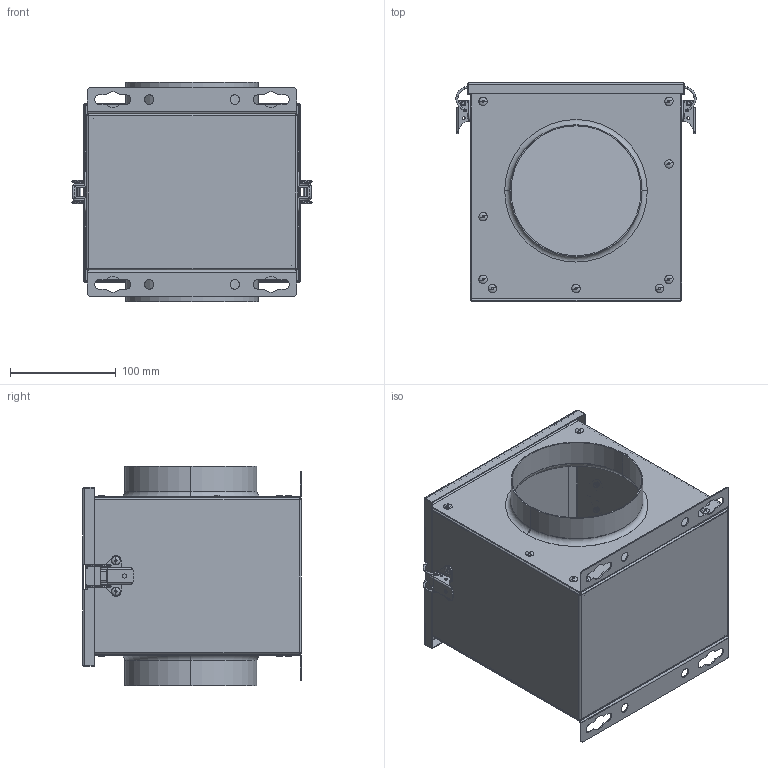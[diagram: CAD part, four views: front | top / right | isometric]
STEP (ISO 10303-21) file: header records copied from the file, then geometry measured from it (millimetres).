
FILE_DESCRIPTION (( 'STEP AP203' ), '1' );
FILE_NAME ('112679-01_FV125_step.step', '2020-08-26T10:44:40', ( '' ), ( '' ), 'SwSTEP 2.0', 'SolidWorks 2017', '' );
FILE_SCHEMA (( 'CONFIG_CONTROL_DESIGN' ));
Length unit declared in the file: millimetre
Products named in the file (1): 112679-01_FV125_step
Bounding box: 227.59 x 207 x 208 mm (x, y, z)
Surface area: 562376.5 mm2 (no closed solid volume)
Topology: 0 solids, 48 shells, 550 faces, 1637 edges, 1084 vertices
Faces by surface type: cylinder 260, plane 161, torus 72, bspline 57
Entity records: 20180 total; most frequent: CARTESIAN_POINT 5130, DIRECTION 3412, ORIENTED_EDGE 2712, EDGE_CURVE 1637, AXIS2_PLACEMENT_3D 1348, VERTEX_POINT 1084, CIRCLE 854, VECTOR 716
